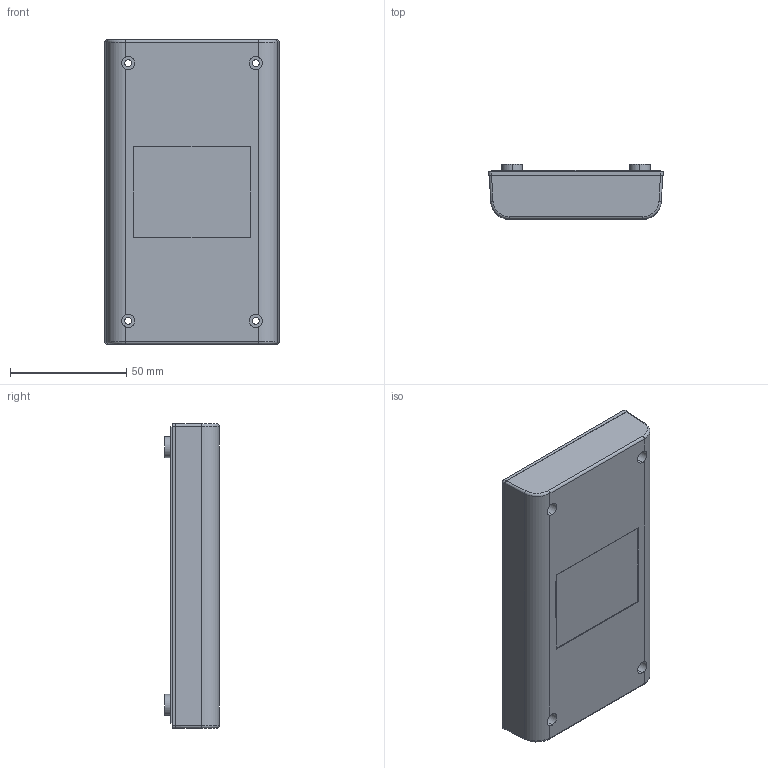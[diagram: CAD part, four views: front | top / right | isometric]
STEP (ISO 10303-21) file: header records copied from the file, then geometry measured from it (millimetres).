
FILE_DESCRIPTION (( 'STEP AP214' ), '1' );
FILE_NAME ('Cos.STEP', '2016-09-12T16:21:27', ( 'aaa' ), ( '' ), 'SwSTEP 2.0', 'SolidWorks 2013', '' );
FILE_SCHEMA (( 'AUTOMOTIVE_DESIGN' ));
Length unit declared in the file: millimetre
Products named in the file (1): Cos
Bounding box: 75.12 x 23.5 x 131.2 mm (x, y, z)
Volume: 37761.7 mm3; surface area: 36830.3 mm2
Topology: 3 solids, 3 shells, 157 faces, 406 edges, 268 vertices
Faces by surface type: cylinder 76, plane 73, torus 4, bspline 4
Entity records: 5423 total; most frequent: CARTESIAN_POINT 1330, DIRECTION 846, ORIENTED_EDGE 812, EDGE_CURVE 406, AXIS2_PLACEMENT_3D 316, VERTEX_POINT 268, VECTOR 214, LINE 214
